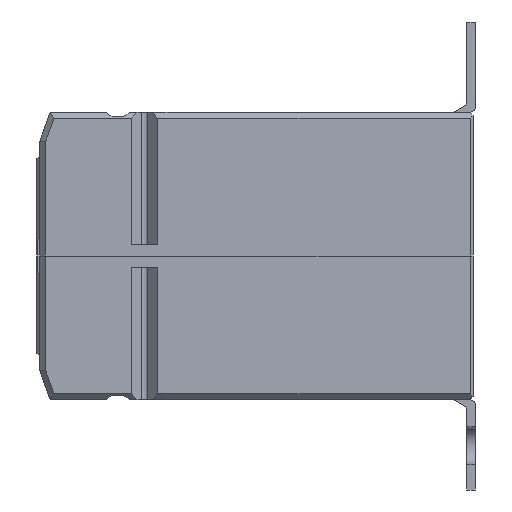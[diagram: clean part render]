
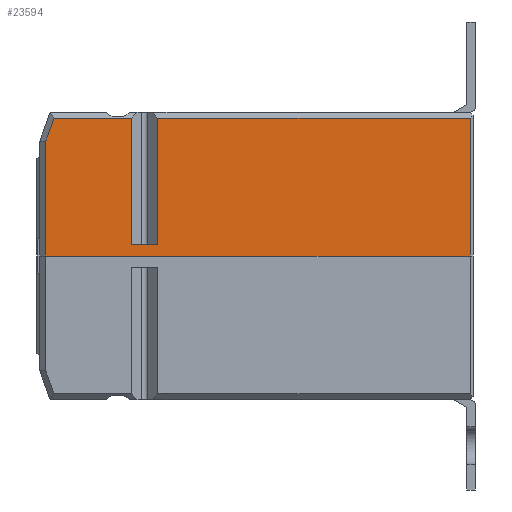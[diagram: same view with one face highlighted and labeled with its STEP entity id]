
A CAD part, left-side view. The second image highlights one B-rep face of the part: STEP entity #23594.
In plain terms, the highlighted planar face has unit normal (-1, 0, 0) as drawn and (1, 0, 0) by its records, which use the part's own axes.
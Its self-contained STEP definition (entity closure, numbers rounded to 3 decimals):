
#1700=FACE_OUTER_BOUND('',#2978,.T.);
#2978=EDGE_LOOP('',(#15615,#15616,#15617,#15618,#15619,#15620,#15621,#15622,
#15623));
#4352=LINE('',#31181,#7012);
#4353=LINE('',#31184,#7013);
#4354=LINE('',#31186,#7014);
#4355=LINE('',#31188,#7015);
#4356=LINE('',#31190,#7016);
#4357=LINE('',#31192,#7017);
#4358=LINE('',#31194,#7018);
#4359=LINE('',#31196,#7019);
#4360=LINE('',#31197,#7020);
#7012=VECTOR('',#26166,10.);
#7013=VECTOR('',#26169,10.);
#7014=VECTOR('',#26170,10.);
#7015=VECTOR('',#26171,10.);
#7016=VECTOR('',#26172,10.);
#7017=VECTOR('',#26173,10.);
#7018=VECTOR('',#26174,10.);
#7019=VECTOR('',#26175,10.);
#7020=VECTOR('',#26176,10.);
#9669=VERTEX_POINT('',#31174);
#9672=VERTEX_POINT('',#31179);
#9673=VERTEX_POINT('',#31183);
#9674=VERTEX_POINT('',#31185);
#9675=VERTEX_POINT('',#31187);
#9676=VERTEX_POINT('',#31189);
#9677=VERTEX_POINT('',#31191);
#9678=VERTEX_POINT('',#31193);
#9679=VERTEX_POINT('',#31195);
#12042=EDGE_CURVE('',#9672,#9669,#4352,.T.);
#12043=EDGE_CURVE('',#9673,#9672,#4353,.T.);
#12044=EDGE_CURVE('',#9673,#9674,#4354,.T.);
#12045=EDGE_CURVE('',#9674,#9675,#4355,.T.);
#12046=EDGE_CURVE('',#9675,#9676,#4356,.T.);
#12047=EDGE_CURVE('',#9677,#9676,#4357,.T.);
#12048=EDGE_CURVE('',#9678,#9677,#4358,.T.);
#12049=EDGE_CURVE('',#9679,#9678,#4359,.T.);
#12050=EDGE_CURVE('',#9669,#9679,#4360,.T.);
#15615=ORIENTED_EDGE('',*,*,#12042,.F.);
#15616=ORIENTED_EDGE('',*,*,#12043,.F.);
#15617=ORIENTED_EDGE('',*,*,#12044,.T.);
#15618=ORIENTED_EDGE('',*,*,#12045,.T.);
#15619=ORIENTED_EDGE('',*,*,#12046,.T.);
#15620=ORIENTED_EDGE('',*,*,#12047,.F.);
#15621=ORIENTED_EDGE('',*,*,#12048,.F.);
#15622=ORIENTED_EDGE('',*,*,#12049,.F.);
#15623=ORIENTED_EDGE('',*,*,#12050,.F.);
#22756=PLANE('',#24983);
#23594=ADVANCED_FACE('',(#1700),#22756,.T.);
#24983=AXIS2_PLACEMENT_3D('',#31182,#26167,#26168);
#26166=DIRECTION('',(0.,0.,1.));
#26167=DIRECTION('center_axis',(1.,0.,0.));
#26168=DIRECTION('ref_axis',(0.,1.,0.));
#26169=DIRECTION('',(0.,-1.,0.));
#26170=DIRECTION('',(0.,0.,1.));
#26171=DIRECTION('',(0.,1.,0.));
#26172=DIRECTION('',(0.,0.,-1.));
#26173=DIRECTION('',(0.,-1.,0.));
#26174=DIRECTION('',(0.,-0.342,-0.94));
#26175=DIRECTION('',(0.,0.,-1.));
#26176=DIRECTION('',(0.,1.,0.));
#31174=CARTESIAN_POINT('',(29.75,0.5,25.));
#31179=CARTESIAN_POINT('',(29.75,0.5,1.));
#31181=CARTESIAN_POINT('',(29.75,0.5,0.));
#31182=CARTESIAN_POINT('Origin',(29.75,0.,0.));
#31183=CARTESIAN_POINT('',(29.75,54.939,1.));
#31184=CARTESIAN_POINT('',(29.75,18.875,1.));
#31185=CARTESIAN_POINT('',(29.75,54.939,23.));
#31186=CARTESIAN_POINT('',(29.75,54.939,0.));
#31187=CARTESIAN_POINT('',(29.75,59.561,23.));
#31188=CARTESIAN_POINT('',(29.75,28.625,23.));
#31189=CARTESIAN_POINT('',(29.75,59.561,1.));
#31190=CARTESIAN_POINT('',(29.75,59.561,0.));
#31191=CARTESIAN_POINT('',(29.75,72.98,1.));
#31192=CARTESIAN_POINT('',(29.75,18.875,1.));
#31193=CARTESIAN_POINT('',(29.75,74.5,5.176));
#31194=CARTESIAN_POINT('',(29.75,68.886,-10.248));
#31195=CARTESIAN_POINT('',(29.75,74.5,25.));
#31196=CARTESIAN_POINT('',(29.75,74.5,0.));
#31197=CARTESIAN_POINT('',(29.75,0.,25.));
